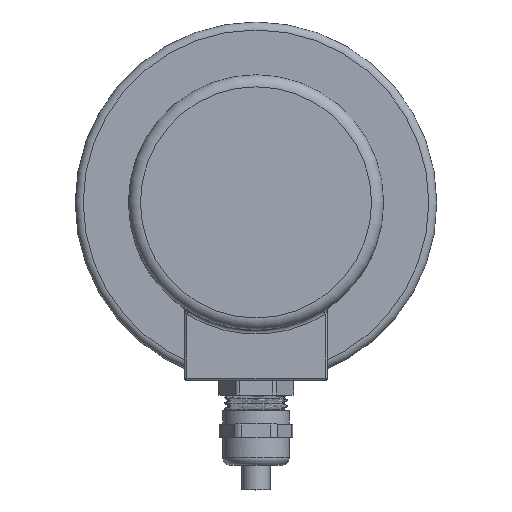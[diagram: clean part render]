
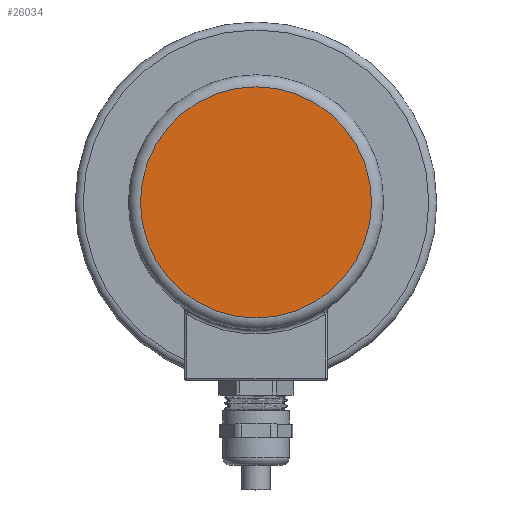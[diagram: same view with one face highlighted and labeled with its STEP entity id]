
A CAD part, top view. The second image highlights one B-rep face of the part: STEP entity #26034.
In plain terms, the highlighted planar face has unit normal (0, 0, 1).
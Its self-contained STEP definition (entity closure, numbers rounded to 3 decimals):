
#25379 = VERTEX_POINT('',#25380);
#25380 = CARTESIAN_POINT('',(28.75,0.,55.6));
#25389 = EDGE_CURVE('',#25379,#25379,#25390,.T.);
#25390 = CIRCLE('',#25391,28.75);
#25391 = AXIS2_PLACEMENT_3D('',#25392,#25393,#25394);
#25392 = CARTESIAN_POINT('',(0.,0.,55.6));
#25393 = DIRECTION('',(0.,0.,1.));
#25394 = DIRECTION('',(1.,0.,-0.));
#26034 = ADVANCED_FACE('',(#26035),#26038,.T.);
#26035 = FACE_BOUND('',#26036,.T.);
#26036 = EDGE_LOOP('',(#26037));
#26037 = ORIENTED_EDGE('',*,*,#25389,.T.);
#26038 = PLANE('',#26039);
#26039 = AXIS2_PLACEMENT_3D('',#26040,#26041,#26042);
#26040 = CARTESIAN_POINT('',(0.,0.,55.6));
#26041 = DIRECTION('',(0.,0.,1.));
#26042 = DIRECTION('',(1.,0.,0.));
